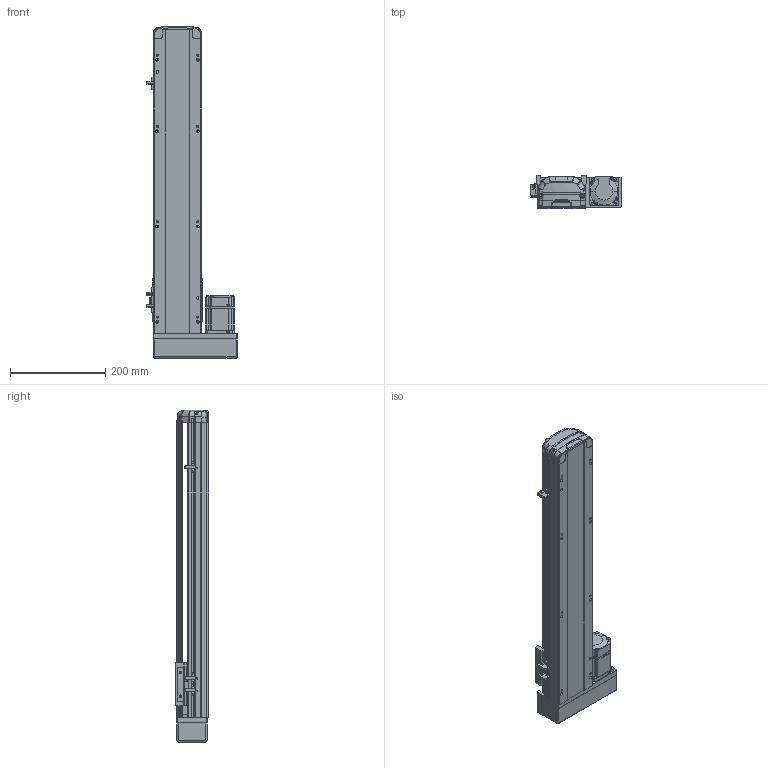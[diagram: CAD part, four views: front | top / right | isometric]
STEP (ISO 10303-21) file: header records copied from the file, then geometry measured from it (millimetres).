
FILE_DESCRIPTION (( 'STEP AP214' ), '1' );
FILE_NAME ('RTH10-XX-450-R-M20-C4.STEP', '2025-10-25T04:59:21', ( 'Microsoft' ), ( 'Microsoft' ), 'SwSTEP 2.0', 'SolidWorks 2018', '' );
FILE_SCHEMA (( 'AUTOMOTIVE_DESIGN' ));
Length unit declared in the file: millimetre
Products named in the file (10): N_RTH10-GY-001P^RTH10-XX-XX-R-M20-C4; N_RTH10-GY-004-賑釱^RTH10-XX-XX-R-M20-C4; N_RTH10-L-018-裔赽^RTH10-XX-XX-R-M20-C4; N_RTH10-M-007P-奻裔^RTH10-XX-XX-R-M20-C4; N_OMRON EE-SX672 传感器^RTH10-XX-XX-R-M20-C4; N_RTH10-L-008萇儂啣^RTH10-XX-XX-R-M20-C4; N_200W-1^RTH10-XX-XX-R-M20-C4; N_RTH10-M-011P-臏倰第菁釱^RTH10-XX-XX-R-M20-C4; N_RTH13-L-012覜茼え俋离^RTH10-XX-XX-R-M20-C4; RTH10-XX-450-R-M20-C4
Assembly tree (11 placements, depth 2):
  RTH10-XX-450-R-M20-C4
    N_RTH10-M-011P-臏倰第菁釱^RTH10-XX-XX-R-M20-C4
    N_RTH13-L-012覜茼え俋离^RTH10-XX-XX-R-M20-C4
    N_OMRON EE-SX672 传感器^RTH10-XX-XX-R-M20-C4  x3
    N_200W-1^RTH10-XX-XX-R-M20-C4
    N_RTH10-M-007P-奻裔^RTH10-XX-XX-R-M20-C4
    N_RTH10-L-008萇儂啣^RTH10-XX-XX-R-M20-C4
    N_RTH10-L-018-裔赽^RTH10-XX-XX-R-M20-C4
    N_RTH10-GY-004-賑釱^RTH10-XX-XX-R-M20-C4
    N_RTH10-GY-001P^RTH10-XX-XX-R-M20-C4
Bounding box: 190 x 70 x 697.14 mm (x, y, z)
Volume: 3330161.8 mm3; surface area: 511268.4 mm2
Topology: 10 solids, 12 shells, 1956 faces, 5443 edges, 3573 vertices
Faces by surface type: plane 979, bspline 472, cylinder 470, cone 29, sphere 4, torus 2
Entity records: 58681 total; most frequent: CARTESIAN_POINT 23149, ORIENTED_EDGE 7958, DIRECTION 6137, EDGE_CURVE 3985, VERTEX_POINT 2617, LINE 2143, VECTOR 2143, AXIS2_PLACEMENT_3D 1997
